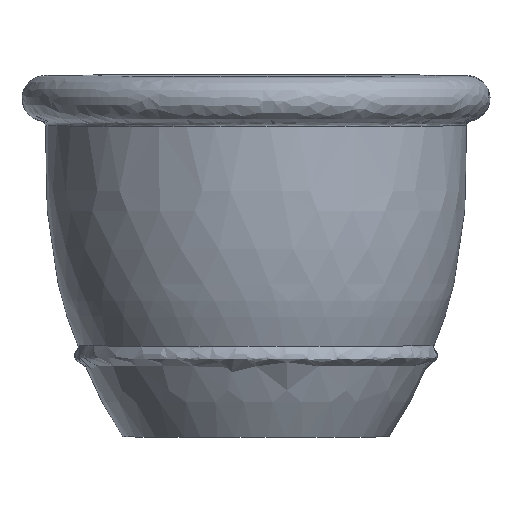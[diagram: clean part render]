
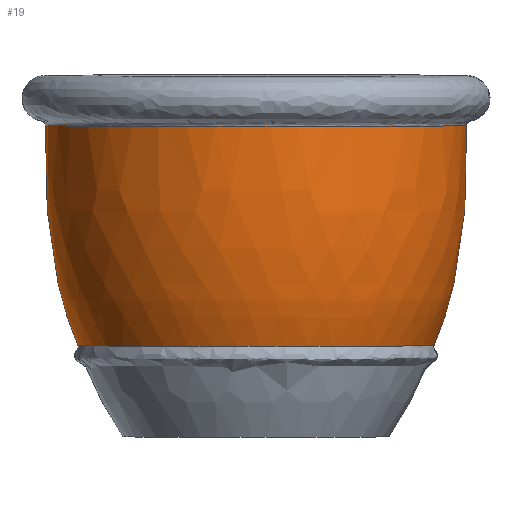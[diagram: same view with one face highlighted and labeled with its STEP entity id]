
A CAD part, front view. The second image highlights one B-rep face of the part: STEP entity #19.
In plain terms, the highlighted free-form (B-spline) face has degree [2, 2] with [3, 5] control points.
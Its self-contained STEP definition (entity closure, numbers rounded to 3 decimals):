
#19=ADVANCED_FACE('',(#38),#258,.T.);
#38=FACE_OUTER_BOUND('',#57,.T.);
#57=EDGE_LOOP('',(#85,#86,#87,#88));
#85=ORIENTED_EDGE('',*,*,#158,.F.);
#86=ORIENTED_EDGE('',*,*,#157,.T.);
#87=ORIENTED_EDGE('',*,*,#159,.T.);
#88=ORIENTED_EDGE('',*,*,#178,.F.);
#157=EDGE_CURVE('',#232,#231,#199,.T.);
#158=EDGE_CURVE('',#232,#243,#200,.T.);
#159=EDGE_CURVE('',#231,#240,#201,.T.);
#178=EDGE_CURVE('',#243,#240,#218,.T.);
#199=(
BOUNDED_CURVE()
B_SPLINE_CURVE(2,(#1049,#1050,#1051),.UNSPECIFIED.,.F.,.F.)
B_SPLINE_CURVE_WITH_KNOTS((3,3),(255.833,652.55),
 .UNSPECIFIED.)
CURVE()
GEOMETRIC_REPRESENTATION_ITEM()
RATIONAL_B_SPLINE_CURVE((1.,1.,1.))
REPRESENTATION_ITEM('')
);
#200=(
BOUNDED_CURVE()
B_SPLINE_CURVE(2,(#1052,#1053,#1054,#1055,#1056),.UNSPECIFIED.,.F.,.F.)
B_SPLINE_CURVE_WITH_KNOTS((3,2,3),(0.,628.053,1256.106),
 .UNSPECIFIED.)
CURVE()
GEOMETRIC_REPRESENTATION_ITEM()
RATIONAL_B_SPLINE_CURVE((1.,0.707,1.,0.707,1.))
REPRESENTATION_ITEM('')
);
#201=(
BOUNDED_CURVE()
B_SPLINE_CURVE(2,(#1057,#1058,#1059,#1060,#1061),.UNSPECIFIED.,.F.,.F.)
B_SPLINE_CURVE_WITH_KNOTS((3,2,3),(0.,628.053,1256.106),
 .UNSPECIFIED.)
CURVE()
GEOMETRIC_REPRESENTATION_ITEM()
RATIONAL_B_SPLINE_CURVE((1.,0.707,1.,0.707,1.))
REPRESENTATION_ITEM('')
);
#218=(
BOUNDED_CURVE()
B_SPLINE_CURVE(2,(#1190,#1191,#1192),.UNSPECIFIED.,.F.,.F.)
B_SPLINE_CURVE_WITH_KNOTS((3,3),(255.833,652.55),
 .UNSPECIFIED.)
CURVE()
GEOMETRIC_REPRESENTATION_ITEM()
RATIONAL_B_SPLINE_CURVE((1.,1.,1.))
REPRESENTATION_ITEM('')
);
#231=VERTEX_POINT('',#1001);
#232=VERTEX_POINT('',#1002);
#240=VERTEX_POINT('',#1010);
#243=VERTEX_POINT('',#1013);
#258=(
BOUNDED_SURFACE()
B_SPLINE_SURFACE(2,2,((#464,#465,#466,#467,#468),(#469,#470,#471,#472,#473),
(#474,#475,#476,#477,#478)),.UNSPECIFIED.,.F.,.F.,.F.)
B_SPLINE_SURFACE_WITH_KNOTS((3,3),(3,2,3),(255.833,652.55),
(0.,628.053,1256.106),.UNSPECIFIED.)
GEOMETRIC_REPRESENTATION_ITEM()
RATIONAL_B_SPLINE_SURFACE(((1.,0.707,1.,0.707,1.),
(1.,0.707,1.,0.707,1.),(1.,0.707,1.,
0.707,1.)))
REPRESENTATION_ITEM('')
SURFACE()
);
#464=CARTESIAN_POINT('',(612.51,-1661.274,515.673));
#465=CARTESIAN_POINT('',(612.51,-2133.369,513.69));
#466=CARTESIAN_POINT('',(1085.022,-2133.369,513.69));
#467=CARTESIAN_POINT('',(1557.533,-2133.369,513.69));
#468=CARTESIAN_POINT('',(1557.533,-1661.274,515.673));
#469=CARTESIAN_POINT('',(603.459,-1662.577,211.437));
#470=CARTESIAN_POINT('',(603.459,-2143.715,209.417));
#471=CARTESIAN_POINT('',(1085.022,-2143.715,209.417));
#472=CARTESIAN_POINT('',(1566.585,-2143.715,209.417));
#473=CARTESIAN_POINT('',(1566.585,-1662.577,211.437));
#474=CARTESIAN_POINT('',(685.521,-1663.388,22.106));
#475=CARTESIAN_POINT('',(685.521,-2062.536,20.43));
#476=CARTESIAN_POINT('',(1085.022,-2062.536,20.43));
#477=CARTESIAN_POINT('',(1484.522,-2062.536,20.43));
#478=CARTESIAN_POINT('',(1484.522,-1663.388,22.106));
#1001=CARTESIAN_POINT('',(685.521,-1663.388,22.106));
#1002=CARTESIAN_POINT('',(612.51,-1661.274,515.673));
#1010=CARTESIAN_POINT('',(1484.522,-1663.388,22.106));
#1013=CARTESIAN_POINT('',(1557.533,-1661.274,515.673));
#1049=CARTESIAN_POINT('',(612.51,-1661.274,515.673));
#1050=CARTESIAN_POINT('',(603.459,-1662.577,211.437));
#1051=CARTESIAN_POINT('',(685.521,-1663.388,22.106));
#1052=CARTESIAN_POINT('',(612.51,-1661.274,515.673));
#1053=CARTESIAN_POINT('',(612.51,-2133.369,513.69));
#1054=CARTESIAN_POINT('',(1085.022,-2133.369,513.69));
#1055=CARTESIAN_POINT('',(1557.533,-2133.369,513.69));
#1056=CARTESIAN_POINT('',(1557.533,-1661.274,515.673));
#1057=CARTESIAN_POINT('',(685.521,-1663.388,22.106));
#1058=CARTESIAN_POINT('',(685.521,-2062.536,20.43));
#1059=CARTESIAN_POINT('',(1085.022,-2062.536,20.43));
#1060=CARTESIAN_POINT('',(1484.522,-2062.536,20.43));
#1061=CARTESIAN_POINT('',(1484.522,-1663.388,22.106));
#1190=CARTESIAN_POINT('',(1557.533,-1661.274,515.673));
#1191=CARTESIAN_POINT('',(1566.585,-1662.577,211.437));
#1192=CARTESIAN_POINT('',(1484.522,-1663.388,22.106));
